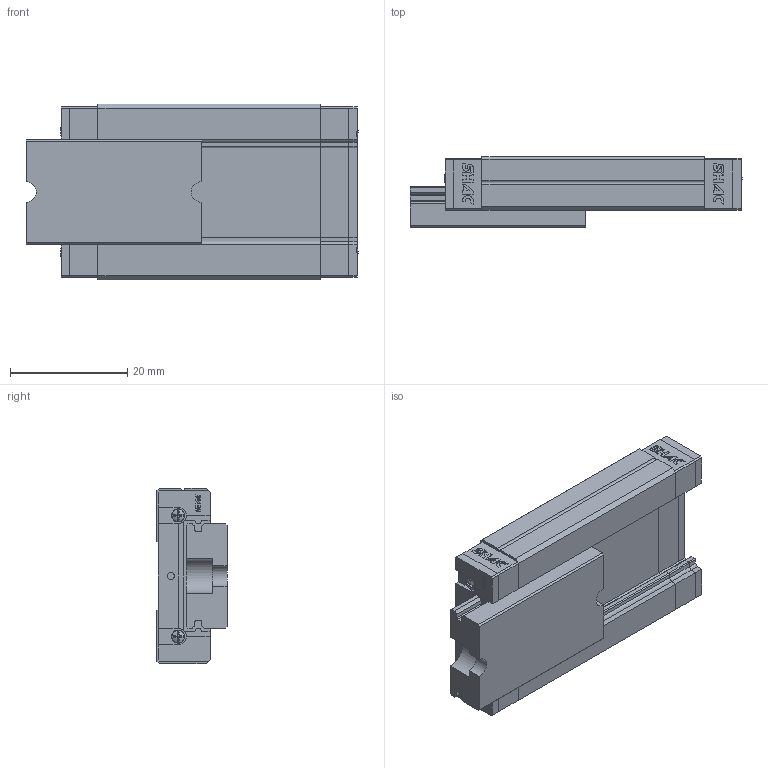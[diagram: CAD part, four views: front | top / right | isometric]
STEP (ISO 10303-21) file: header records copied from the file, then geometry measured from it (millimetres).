
FILE_DESCRIPTION( ( 'STEP AP214' ), '1' );
FILE_NAME( 'F:/品牌/SHAC 台湾鼎翰传动科技有限公司/3D滑块/GMW9H1R30ZFC+U_-0_0_1_.stp', '2025-04-21T22:54:55', ( 'License CC BY-ND 4.0' ), ( 'CADENAS' ), ' ', 'PARTsolutions', ' ' );
FILE_SCHEMA( ( 'AUTOMOTIVE_DESIGN { 1 0 10303 214 1 1 1 1 }' ) );
Length unit declared in the file: millimetre
Products named in the file (5): GMW9H1R30ZFC+U/-0/0(1); _GMW9R30-0/0(1)_R; _GMW9H_S; _GMW9_C; _GMW9_P
Assembly tree (6 placements, depth 2):
  GMW9H1R30ZFC+U/-0/0(1)
    _GMW9R30-0/0(1)_R
    _GMW9H_S
    _GMW9_C  x2
    _GMW9_P  x2
Bounding box: 56.73 x 12 x 30 mm (x, y, z)
Volume: 13325 mm3; surface area: 8444 mm2
Topology: 6 solids, 6 shells, 655 faces, 1817 edges, 1206 vertices
Faces by surface type: plane 526, cylinder 113, cone 8, sphere 4, torus 4
Full cylindrical faces by diameter (mm): 1.2 x2, 2.24 x4, 2.459 x4
Entity records: 15546 total; most frequent: CARTESIAN_POINT 2180, ORIENTED_EDGE 2124, DIRECTION 2042, EDGE_CURVE 1062, LINE 882, VECTOR 882, VERTEX_POINT 718, AXIS2_PLACEMENT_3D 580
